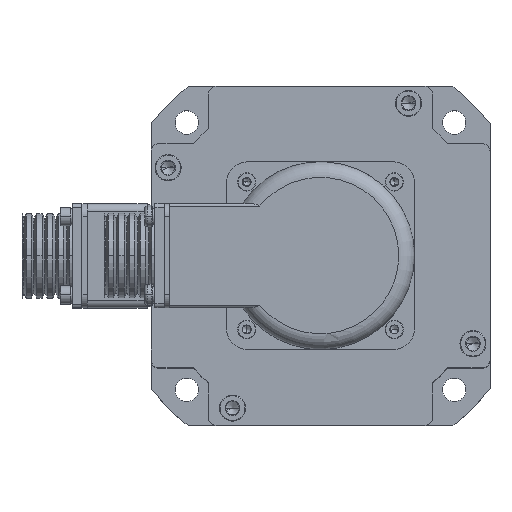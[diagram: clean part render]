
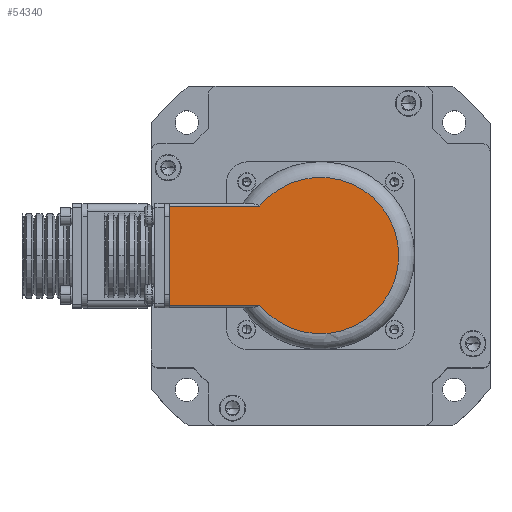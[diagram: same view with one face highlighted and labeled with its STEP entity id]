
A CAD part, top view. The second image highlights one B-rep face of the part: STEP entity #54340.
In plain terms, the highlighted planar face has unit normal (0, 0, 1) as drawn and (1, 0, 0) by its records, which use the part's own axes.
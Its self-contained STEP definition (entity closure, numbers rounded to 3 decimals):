
#52804=DIRECTION('',(0.,1.,0.));
#52805=VECTOR('',#52804,34.784);
#52806=CARTESIAN_POINT('',(43.,23.216,-19.));
#52807=LINE('',#52806,#52805);
#52812=CARTESIAN_POINT('',(43.,0.,0.));
#52813=DIRECTION('',(-1.,0.,0.));
#52814=DIRECTION('',(0.,0.774,-0.633));
#52815=AXIS2_PLACEMENT_3D('',#52812,#52813,#52814);
#52817=CARTESIAN_POINT('',(43.,0.,0.));
#52818=DIRECTION('',(-1.,0.,0.));
#52819=DIRECTION('',(0.,-1.,0.001));
#52820=AXIS2_PLACEMENT_3D('',#52817,#52818,#52819);
#52822=DIRECTION('',(0.,-1.,0.));
#52823=VECTOR('',#52822,34.784);
#52824=CARTESIAN_POINT('',(43.,58.,19.));
#52825=LINE('',#52824,#52823);
#52862=DIRECTION('',(0.,0.,1.));
#52863=VECTOR('',#52862,38.);
#52864=CARTESIAN_POINT('',(43.,58.,-19.));
#52865=LINE('',#52864,#52863);
#53860=CARTESIAN_POINT('',(43.,23.216,-19.));
#53861=CARTESIAN_POINT('',(43.,58.,-19.));
#53862=VERTEX_POINT('',#53860);
#53863=VERTEX_POINT('',#53861);
#53864=CARTESIAN_POINT('',(43.,58.,19.));
#53865=CARTESIAN_POINT('',(43.,23.216,19.));
#53866=VERTEX_POINT('',#53864);
#53867=VERTEX_POINT('',#53865);
#53868=CARTESIAN_POINT('',(43.,-30.,0.033));
#53869=VERTEX_POINT('',#53868);
#54324=CARTESIAN_POINT('',(43.,0.,0.));
#54325=DIRECTION('',(1.,0.,0.));
#54326=DIRECTION('',(0.,-1.,0.));
#54327=AXIS2_PLACEMENT_3D('',#54324,#54325,#54326);
#54328=PLANE('',#54327);
#54330=ORIENTED_EDGE('',*,*,#54329,.F.);
#54332=ORIENTED_EDGE('',*,*,#54331,.F.);
#54333=ORIENTED_EDGE('',*,*,#54307,.F.);
#54335=ORIENTED_EDGE('',*,*,#54334,.T.);
#54337=ORIENTED_EDGE('',*,*,#54336,.T.);
#54338=EDGE_LOOP('',(#54330,#54332,#54333,#54335,#54337));
#54339=FACE_OUTER_BOUND('',#54338,.F.);
#54340=ADVANCED_FACE('',(#54339),#54328,.T.);
#52816=CIRCLE('',#52815,30.);
#52821=CIRCLE('',#52820,30.);
#54307=EDGE_CURVE('',#53862,#53863,#52807,.T.);
#54329=EDGE_CURVE('',#53866,#53867,#52825,.T.);
#54331=EDGE_CURVE('',#53863,#53866,#52865,.T.);
#54334=EDGE_CURVE('',#53862,#53869,#52816,.T.);
#54336=EDGE_CURVE('',#53869,#53867,#52821,.T.);
